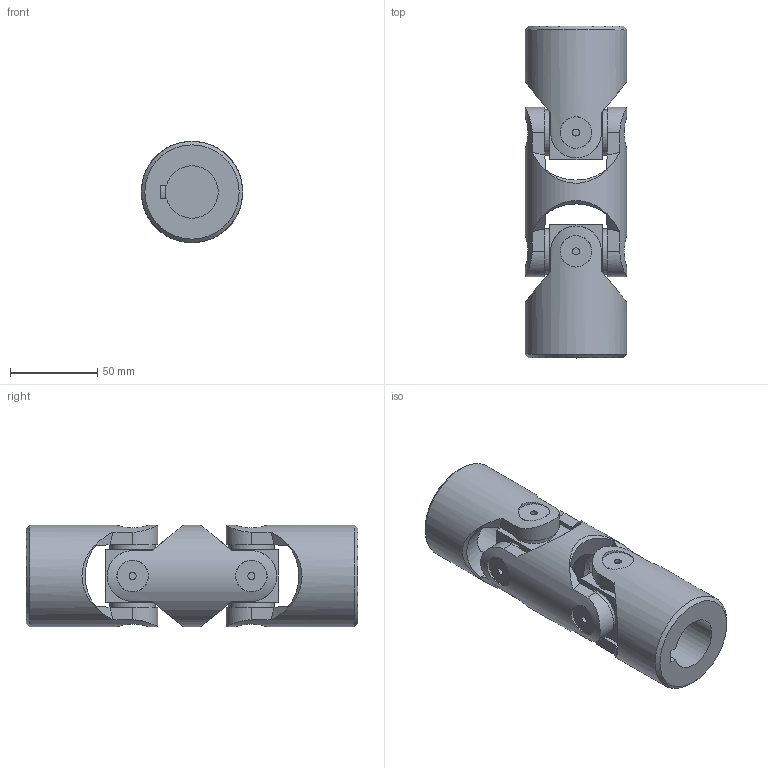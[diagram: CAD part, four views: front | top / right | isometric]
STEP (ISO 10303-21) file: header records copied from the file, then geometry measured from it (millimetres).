
FILE_DESCRIPTION(/* description */ (''),/* implementation_level */ '2;1');
FILE_NAME(/* name */ '\\SRV2016\Societa\Stefano\Disegni 3D\00Catalogo 3D\02Doppi GD-GBD\SG0D301C.stp',/* time_stamp */ '2021-11-23T15:51:22+01:00',/* author */ ('acquisti'),/* organization */ (''),/* preprocessor_version */ 'ST-DEVELOPER v15.6',/* originating_system */ 'Autodesk Inventor 2015',/* authorisation */ '');
FILE_SCHEMA (('AUTOMOTIVE_DESIGN { 1 0 10303 214 3 1 1 }'));
Length unit declared in the file: millimetre
Products named in the file (5): 6G MOD; 6G SFE; 6G MOC; 6G MOS; Ø58_6GD-00_SG0D3000
Assembly tree (5 placements, depth 2):
  Ø58_6GD-00_SG0D3000
    6G MOD
    6G SFE  x2
    6G MOC
    6G MOS
Bounding box: 58 x 190 x 58 mm (x, y, z)
Volume: 319698.1 mm3; surface area: 71228.2 mm2
Topology: 5 solids, 5 shells, 140 faces, 340 edges, 230 vertices
Faces by surface type: plane 73, cylinder 41, cone 22, torus 4
Full cylindrical faces by diameter (mm): 4 x8, 18 x8, 26 x8, 30 x1, 32 x3, 58 x3
Entity records: 4503 total; most frequent: CARTESIAN_POINT 1677, ORIENTED_EDGE 552, DIRECTION 531, EDGE_CURVE 276, AXIS2_PLACEMENT_3D 231, VERTEX_POINT 210, EDGE_LOOP 184, FACE_OUTER_BOUND 126
